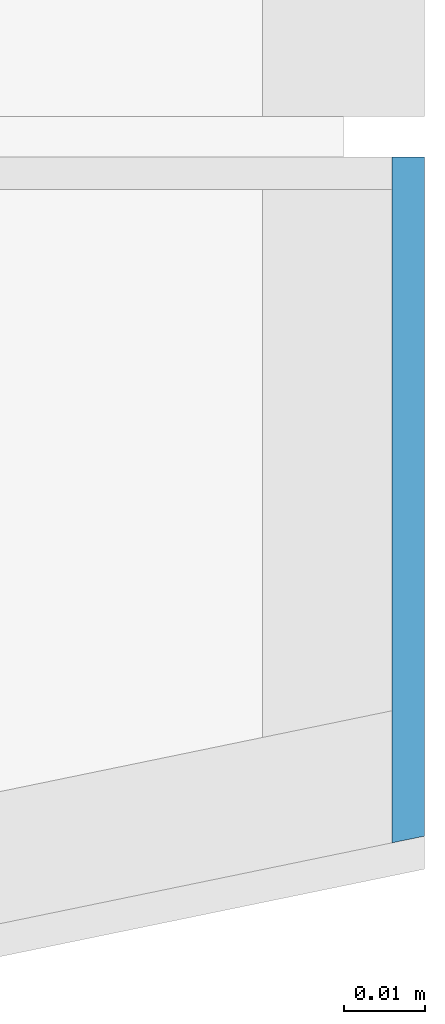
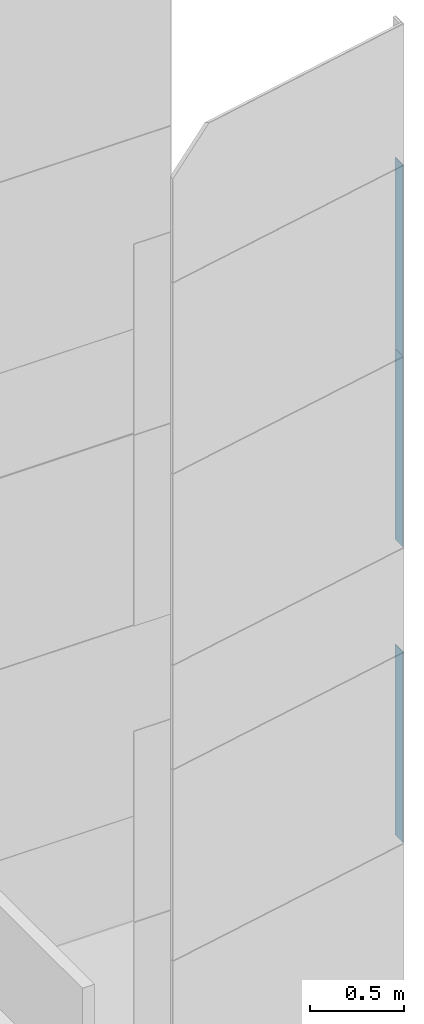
# One storey, part 15 of 125: 3 building element parts, 1 element without a shape of its own.
"""IFC2X3 building model written with IfcOpenShell, lengths in millimetres."""

from ifc_helpers import new_model, entity, si_unit, converted_unit, direction, frame, origin, place, context, subcontext, project, spatial, polyline, outline, extrude, material, type_object, element, aggregate, save


model = new_model("IFC2X3")

# Units and contexts
model_context = context("Model", 3, precision=0.01, world=origin(), true_north=direction((6.123233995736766e-17, 1.0)))
plan_context = context("Plan", 3, precision=0.01, world=origin(), true_north=direction((6.123233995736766e-17, 1.0)))
body_context = subcontext(model_context, "Body", "Model", "MODEL_VIEW")
ifc_project = project(units=[si_unit("LENGTHUNIT", "METRE", prefix="MILLI"), converted_unit("PLANEANGLEUNIT", "DEGREE", entity("IfcPlaneAngleMeasure", 0.017453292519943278), si_unit("PLANEANGLEUNIT", "RADIAN"), dimensions=[0, 0, 0, 0, 0, 0, 0]), si_unit("AREAUNIT", "SQUARE_METRE")], contexts=[model_context, plan_context])

# Site, building, storey
site_placement = place(None, origin())
site = spatial("IfcSite", under=ifc_project, at=site_placement, Name="Default", CompositionType="ELEMENT")
building_placement = place(site_placement, origin())
building = spatial("IfcBuilding", under=site, at=building_placement, CompositionType="ELEMENT")
storey_placement = place(building_placement, frame((0.0, 0.0, 3125.0)))
storey = spatial("IfcBuildingStorey", under=building, at=storey_placement, Name="2K", CompositionType="ELEMENT", Elevation=3125.0)

# Wall, building element parts
wall_type = type_object("IfcWallType", Name="Basic Wall:VS-komposiit", PredefinedType="STANDARD")
wall_placement = place(storey_placement, frame((18942.0, 2895.2108323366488, -1010.0), z_axis=(0.0, 0.0, 1.0), x_axis=(0.0, 1.0, 0.0)))
wall = element("IfcWall", 1, at=wall_placement, inside=storey, type_object=wall_type, Name="Basic Wall:VS-komposiit", ObjectType="Basic Wall:VS-komposiit")
ifc_material = material(Name="_K. Välisviimistlus. Alumiinium-komposiitplaat")
building_element_part_1_placement = place(wall_placement, origin())
building_element_part_1 = element("IfcBuildingElementPart", 2, at=building_element_part_1_placement, material=ifc_material, Name="Part", context=body_context, shape_type="SweptSolid", body=[
    extrude(outline(polyline([(-42.20013519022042, -2.0), (42.61260185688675, -2.0), (41.787668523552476, 2.0), (-42.20013519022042, 2.0), (-42.20013519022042, -2.0)])), frame((29.57562070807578, -8.0, 8512.49999999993), z_axis=(0.0, 0.0, 1.0), x_axis=(-1.0, 0.0, 0.0)), (0.0, 0.0, 1.0), 1240.000000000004),
])
building_element_part_2_placement = place(wall_placement, origin())
building_element_part_2 = element("IfcBuildingElementPart", 3, at=building_element_part_2_placement, material=ifc_material, Name="Part", context=body_context, shape_type="SweptSolid", body=[
    extrude(outline(polyline([(-42.20013519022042, -2.0), (42.61260185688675, -2.0), (41.787668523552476, 2.0), (-42.20013519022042, 2.0), (-42.20013519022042, -2.0)])), frame((29.57562070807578, -8.0, 7267.499999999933), z_axis=(0.0, 0.0, 1.0), x_axis=(-1.0, 0.0, 0.0)), (0.0, 0.0, 1.0), 1240.0000000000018),
])
building_element_part_3_placement = place(wall_placement, origin())
building_element_part_3 = element("IfcBuildingElementPart", 4, at=building_element_part_3_placement, material=ifc_material, Name="Part", context=body_context, shape_type="SweptSolid", body=[
    extrude(outline(polyline([(-42.20013519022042, -2.0), (42.61260185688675, -2.0), (41.787668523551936, 2.0), (-42.20013519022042, 2.0), (-42.20013519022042, -2.0)])), frame((29.57562070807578, -8.0, 5342.499999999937), z_axis=(0.0, 0.0, 1.0), x_axis=(-1.0, 0.0, 0.0)), (0.0, 0.0, 1.0), 1239.9999999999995),
])
aggregate(wall, [building_element_part_1, building_element_part_2, building_element_part_3])

save(model, "model.ifc")
